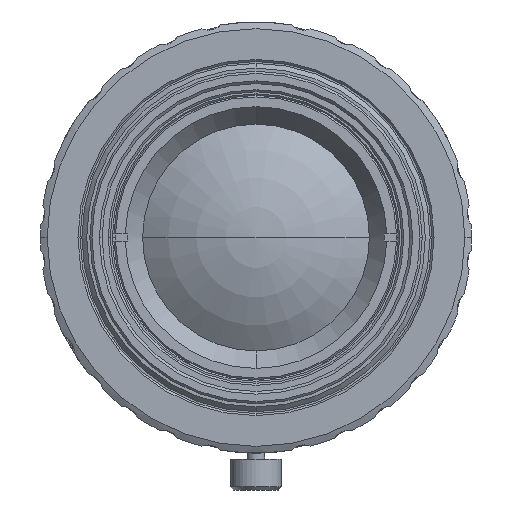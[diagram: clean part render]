
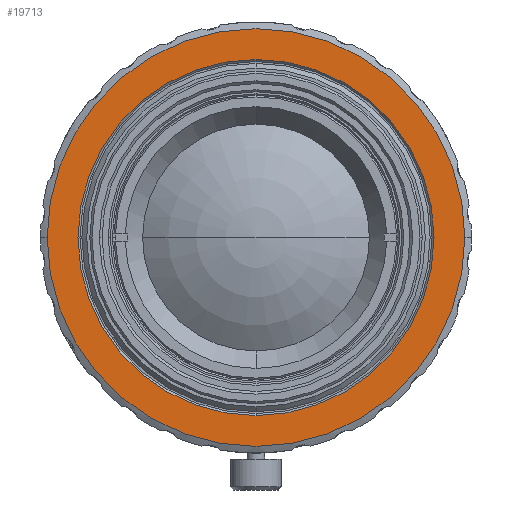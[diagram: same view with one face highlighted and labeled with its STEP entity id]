
A CAD part, front view. The second image highlights one B-rep face of the part: STEP entity #19713.
In plain terms, the highlighted planar face has unit normal (0, -1, 0).
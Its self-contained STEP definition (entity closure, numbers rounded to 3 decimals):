
#155 = VERTEX_POINT ( 'NONE', #22309 ) ;
#441 = CARTESIAN_POINT ( 'NONE',  ( -20.35, -77.613, 0. ) ) ;
#1167 = AXIS2_PLACEMENT_3D ( 'NONE', #32505, #16799, #1218 ) ;
#1218 = DIRECTION ( 'NONE',  ( 0., 0., -1. ) ) ;
#2632 = CARTESIAN_POINT ( 'NONE',  ( 0., -77.613, 19.3 ) ) ;
#3566 = ORIENTED_EDGE ( 'NONE', *, *, #30033, .T. ) ;
#3592 = VERTEX_POINT ( 'NONE', #5001 ) ;
#4676 = CARTESIAN_POINT ( 'NONE',  ( 0., -77.613, 0. ) ) ;
#5001 = CARTESIAN_POINT ( 'NONE',  ( 0., -77.613, -17.35 ) ) ;
#5254 = DIRECTION ( 'NONE',  ( 0., -1., 0. ) ) ;
#6680 = EDGE_LOOP ( 'NONE', ( #3566, #31353 ) ) ;
#7006 = DIRECTION ( 'NONE',  ( 0., -1., 0. ) ) ;
#7308 = DIRECTION ( 'NONE',  ( 0., 0., -1. ) ) ;
#9403 = CIRCLE ( 'NONE', #17627, 17.35 ) ;
#9732 = AXIS2_PLACEMENT_3D ( 'NONE', #22653, #7006, #25292 ) ;
#10589 = CARTESIAN_POINT ( 'NONE',  ( 0., -77.613, 17.35 ) ) ;
#12041 = CARTESIAN_POINT ( 'NONE',  ( 0., -77.613, 0. ) ) ;
#14687 = DIRECTION ( 'NONE',  ( 1., 0., 0. ) ) ;
#16059 = FACE_OUTER_BOUND ( 'NONE', #6680, .T. ) ;
#16553 = EDGE_LOOP ( 'NONE', ( #29022, #31635 ) ) ;
#16799 = DIRECTION ( 'NONE',  ( 0., -1., 0. ) ) ;
#17627 = AXIS2_PLACEMENT_3D ( 'NONE', #4676, #22936, #7308 ) ;
#17814 = CIRCLE ( 'NONE', #25732, 20.35 ) ;
#19713 = ADVANCED_FACE ( 'NONE', ( #23047, #16059 ), #20882, .T. ) ;
#19756 = VERTEX_POINT ( 'NONE', #10589 ) ;
#20882 = PLANE ( 'NONE',  #21322 ) ;
#21322 = AXIS2_PLACEMENT_3D ( 'NONE', #2632, #5254, #23511 ) ;
#21903 = CIRCLE ( 'NONE', #9732, 20.35 ) ;
#22286 = EDGE_CURVE ( 'NONE', #19756, #3592, #9403, .T. ) ;
#22309 = CARTESIAN_POINT ( 'NONE',  ( 20.35, -77.613, 0. ) ) ;
#22653 = CARTESIAN_POINT ( 'NONE',  ( 0., -77.613, 0. ) ) ;
#22936 = DIRECTION ( 'NONE',  ( 0., -1., 0. ) ) ;
#23047 = FACE_BOUND ( 'NONE', #16553, .T. ) ;
#23511 = DIRECTION ( 'NONE',  ( 0., 0., -1. ) ) ;
#24314 = CIRCLE ( 'NONE', #1167, 17.35 ) ;
#25292 = DIRECTION ( 'NONE',  ( 1., 0., 0. ) ) ;
#25732 = AXIS2_PLACEMENT_3D ( 'NONE', #12041, #30363, #14687 ) ;
#28329 = EDGE_CURVE ( 'NONE', #3592, #19756, #24314, .T. ) ;
#29022 = ORIENTED_EDGE ( 'NONE', *, *, #28329, .F. ) ;
#30033 = EDGE_CURVE ( 'NONE', #31798, #155, #17814, .T. ) ;
#30363 = DIRECTION ( 'NONE',  ( 0., -1., 0. ) ) ;
#30559 = EDGE_CURVE ( 'NONE', #155, #31798, #21903, .T. ) ;
#31353 = ORIENTED_EDGE ( 'NONE', *, *, #30559, .T. ) ;
#31635 = ORIENTED_EDGE ( 'NONE', *, *, #22286, .F. ) ;
#31798 = VERTEX_POINT ( 'NONE', #441 ) ;
#32505 = CARTESIAN_POINT ( 'NONE',  ( 0., -77.613, 0. ) ) ;
